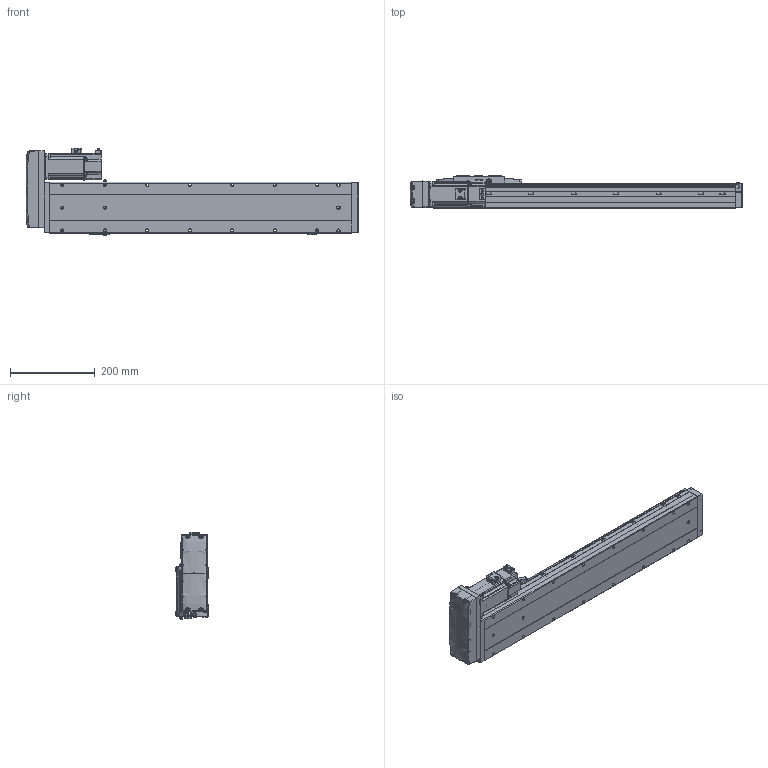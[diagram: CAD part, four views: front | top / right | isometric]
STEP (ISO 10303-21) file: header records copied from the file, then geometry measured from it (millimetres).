
FILE_DESCRIPTION (( 'STEP AP214' ), '1' );
FILE_NAME ('CTH12-L10-S500-BL-C40（简）.STEP', '2023-02-06T04:59:53', ( '' ), ( '' ), 'SwSTEP 2.0', 'SolidWorks 2018', '' );
FILE_SCHEMA (( 'AUTOMOTIVE_DESIGN' ));
Length unit declared in the file: millimetre
Products named in the file (24): 蚐郲; CTH12-L10-S500-BL-C40（简）; CTH12賑怢ㄗ潠ㄘ; hex nuts, style 1-grades ab gb_GB_FASTENER_NUT_SNAB1 M3-N; CTH12; M5蹟隊; CTH12底座-L711简（500行程）; 内六角圆柱头螺钉M3; CTH400W假蚾啣; 湮賑怢  裔赽-1(CTH12)賑怢; 内六角圆柱头螺钉M3-2; CTH12_body_3; 嫖萇羲壽郪磁2; 内六角圆柱头螺钉M3-1; CTH嫖萇羲壽假蚾啣; PM-Y45; CTH12賑怢郪磁; CTH12-BL_body_4; CTH12侧装连接板（标准）简; 400W萇儂; CTH400W垫板（3个厚）; CTH12覜茼え; CTH12耜蚾裔; 嫖萇羲壽郪磁1
Assembly tree (44 placements, depth 4):
  CTH12-L10-S500-BL-C40（简）
    CTH12底座-L711简（500行程）
    蚐郲  x2
    CTH12_body_3
    CTH12-BL_body_4
    CTH12侧装连接板（标准）简
    CTH12耜蚾裔
    CTH12賑怢郪磁
      CTH12
        湮賑怢  裔赽-1(CTH12)賑怢
        CTH12賑怢ㄗ潠ㄘ
    CTH12覜茼え
    CTH400W垫板（3个厚）
    400W萇儂
    内六角圆柱头螺钉M3  x6
    M5蹟隊  x4
    嫖萇羲壽郪磁1
      CTH嫖萇羲壽假蚾啣
      PM-Y45
      内六角圆柱头螺钉M3-2  x2
      内六角圆柱头螺钉M3-1  x2
      hex nuts, style 1-grades ab gb_GB_FASTENER_NUT_SNAB1 M3-N  x2
    嫖萇羲壽郪磁2  x2
      CTH嫖萇羲壽假蚾啣
      PM-Y45
      内六角圆柱头螺钉M3-1
      内六角圆柱头螺钉M3-2
      hex nuts, style 1-grades ab gb_GB_FASTENER_NUT_SNAB1 M3-N
    CTH400W假蚾啣
Bounding box: 781.5 x 76 x 205.26 mm (x, y, z)
Volume: 5380213.3 mm3; surface area: 616229.5 mm2
Topology: 47 solids, 48 shells, 3188 faces, 7951 edges, 4985 vertices
Faces by surface type: plane 1546, cylinder 917, cone 415, bspline 182, torus 124, sphere 4
Entity records: 104810 total; most frequent: CARTESIAN_POINT 39082, ORIENTED_EDGE 13004, DIRECTION 12284, EDGE_CURVE 6502, AXIS2_PLACEMENT_3D 4304, VERTEX_POINT 4089, LINE 3676, VECTOR 3676
